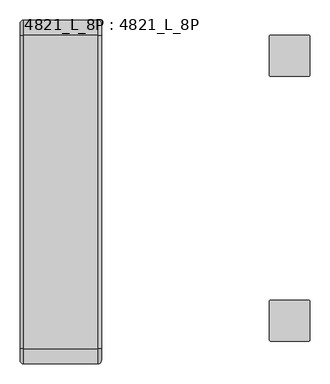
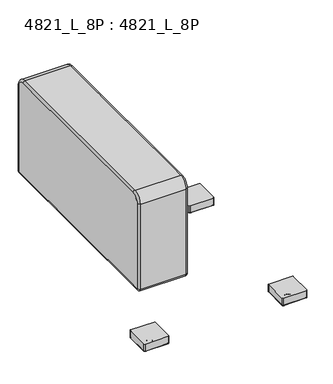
"""IFC4 building model written with IfcOpenShell, lengths in millimetres: furniture geometry, 4821_L_8P : 4821_L_8P."""

from ifc_helpers import new_model, si_unit, point, frame, frame_2d, origin, place, context, project, spatial, polyline, circle_curve, ellipse_curve, trimmed, segment, composite_curve, outline, extrude, source, transform, mapped, element, save
from ifc_brep_helpers import plane_surface, cylinder_surface, revolved_surface, advanced_brep


def furniture_4821_l_8p_4821_l_8p_66b5bbd4(model_context):
    return source(origin(), model_context, "Body", "SolidModel", [
        advanced_brep(
        [(203.2, -8.89, 698.8175), (203.2, -38.1, 728.0275), (203.2, -819.15, 728.0275), (203.2, -848.36, 698.8175), (203.2, -848.36, 330.4403326), (203.2, -847.8021674, 329.8825), (203.2, -9.4347305, 329.8825), (203.2, -8.89, 330.4272305), (0.0, -38.1, 728.0275), (0.0, -8.89, 698.8175), (0.0, -8.89, 330.4272305), (0.0, -9.4347305, 329.8825), (0.0, -847.8021674, 329.8825), (0.0, -848.36, 330.4403326), (0.0, -848.36, 698.8175), (0.0, -819.15, 728.0275), (8.89, -38.1, 736.9175), (8.89, -819.15, 736.9175), (194.31, -819.15, 736.9175), (194.31, -38.1, 736.9175), (8.89, -857.25, 698.8175), (194.31, -857.25, 698.8175), (8.89, -857.25, 330.4403326), (194.31, -857.25, 330.4403326), (8.89, -847.8021674, 320.9925), (194.31, -847.8021674, 320.9925), (8.89, -9.4347305, 320.9925), (194.31, -9.4347305, 320.9925), (57.15, -187.325, 320.9925), (57.15, -161.925, 320.9925), (57.15, -695.325, 320.9925), (57.15, -669.925, 320.9925), (8.89, 0.0, 330.4272305), (194.31, 0.0, 330.4272305), (8.89, 0.0, 698.8175), (194.31, 0.0, 698.8175), (57.15, -161.925, 333.6925), (57.15, -187.325, 333.6925), (57.15, -669.925, 333.6925), (57.15, -695.325, 333.6925)],
        [
            (0, 1, circle_curve(frame((203.2, -38.1, 698.8175), z_axis=(1.0, 0.0, 0.0), x_axis=(0.0, 0.0, 1.0)), 29.21)),
            (1, 2),
            (2, 3, circle_curve(frame((203.2, -819.15, 698.8175), z_axis=(1.0, 0.0, 0.0), x_axis=(0.0, -1.0, 0.0)), 29.21)),
            (3, 4),
            (4, 5, circle_curve(frame((203.2, -847.8021674, 330.4403326), z_axis=(1.0, 0.0, 0.0), x_axis=(0.0, 0.0, -1.0)), 0.5578326)),
            (5, 6),
            (6, 7, circle_curve(frame((203.2, -9.4347305, 330.4272305), z_axis=(1.0, 0.0, 0.0), x_axis=(0.0, 1.0, 0.0)), 0.5447305)),
            (7, 0),
            (8, 9, circle_curve(frame((0.0, -38.1, 698.8175), z_axis=(-1.0, 0.0, 0.0), x_axis=(0.0, 0.0, 1.0)), 29.21)),
            (9, 10),
            (10, 11, circle_curve(frame((0.0, -9.4347305, 330.4272305), z_axis=(-1.0, 0.0, 0.0), x_axis=(0.0, 1.0, 0.0)), 0.5447305)),
            (11, 12),
            (12, 13, circle_curve(frame((0.0, -847.8021674, 330.4403326), z_axis=(-1.0, 0.0, 0.0), x_axis=(0.0, 0.0, -1.0)), 0.5578326)),
            (13, 14),
            (14, 15, circle_curve(frame((0.0, -819.15, 698.8175), z_axis=(-1.0, 0.0, 0.0), x_axis=(0.0, -1.0, 0.0)), 29.21)),
            (15, 8),
            (16, 17),
            (17, 18),
            (18, 19),
            (19, 16),
            (17, 20, circle_curve(frame((8.89, -819.15, 698.8175), z_axis=(1.0, 0.0, 0.0), x_axis=(0.0, -1.0, 0.0)), 38.1)),
            (20, 21),
            (21, 18, circle_curve(frame((194.31, -819.15, 698.8175), z_axis=(-1.0, 0.0, 0.0), x_axis=(0.0, -1.0, 0.0)), 38.1)),
            (20, 22),
            (22, 23),
            (23, 21),
            (22, 24, circle_curve(frame((8.89, -847.8021674, 330.4403326), z_axis=(1.0, 0.0, 0.0), x_axis=(0.0, -1.0, 0.0)), 9.4478326)),
            (24, 25),
            (25, 23, circle_curve(frame((194.31, -847.8021674, 330.4403326), z_axis=(-1.0, 0.0, 0.0), x_axis=(0.0, -1.0, 0.0)), 9.4478326)),
            (24, 26),
            (26, 27),
            (27, 25),
            (28, 29, circle_curve(frame((57.15, -174.625, 320.9925), z_axis=(0.0, 0.0, 1.0), x_axis=(-1.0, 0.0, 0.0)), 12.7)),
            (29, 28),
            (30, 31, circle_curve(frame((57.15, -682.625, 320.9925), z_axis=(0.0, 0.0, 1.0), x_axis=(-1.0, 0.0, 0.0)), 12.7)),
            (31, 30),
            (26, 32, circle_curve(frame((8.89, -9.4347305, 330.4272305), z_axis=(1.0, 0.0, 0.0), x_axis=(0.0, -1.0, 0.0)), 9.4347305)),
            (32, 33),
            (33, 27, circle_curve(frame((194.31, -9.4347305, 330.4272305), z_axis=(-1.0, 0.0, 0.0), x_axis=(0.0, -1.0, 0.0)), 9.4347305)),
            (32, 34),
            (34, 35),
            (35, 33),
            (34, 16, circle_curve(frame((8.89, -38.1, 698.8175), z_axis=(1.0, 0.0, 0.0), x_axis=(0.0, -1.0, 0.0)), 38.1)),
            (19, 35, circle_curve(frame((194.31, -38.1, 698.8175), z_axis=(-1.0, 0.0, 0.0), x_axis=(0.0, -1.0, 0.0)), 38.1)),
            (34, 9, circle_curve(frame((8.89, -8.89, 698.8175), z_axis=(0.0, 0.0, 1.0), x_axis=(1.0, 0.0, 0.0)), 8.89)),
            (8, 16, circle_curve(frame((8.89, -38.1, 728.0275), z_axis=(0.0, 1.0, 0.0), x_axis=(1.0, 0.0, 0.0)), 8.89)),
            (32, 10, circle_curve(frame((8.89, -8.89, 330.4272305), z_axis=(0.0, 0.0, 1.0), x_axis=(1.0, 0.0, 0.0)), 8.89)),
            (26, 11, circle_curve(frame((8.89, -9.4347305, 329.8825), z_axis=(0.0, 1.0, 0.0), x_axis=(1.0, 0.0, 0.0)), 8.89)),
            (24, 12, circle_curve(frame((8.89, -847.8021674, 329.8825), z_axis=(0.0, 1.0, 0.0), x_axis=(1.0, 0.0, 0.0)), 8.89)),
            (22, 13, circle_curve(frame((8.89, -848.36, 330.4403326), z_axis=(0.0, 0.0, -1.0), x_axis=(1.0, 0.0, 0.0)), 8.89)),
            (20, 14, circle_curve(frame((8.89, -848.36, 698.8175), z_axis=(0.0, 0.0, -1.0), x_axis=(1.0, 0.0, 0.0)), 8.89)),
            (17, 15, circle_curve(frame((8.89, -819.15, 728.0275), z_axis=(0.0, -1.0, 0.0), x_axis=(1.0, 0.0, 0.0)), 8.89)),
            (0, 35, circle_curve(frame((194.31, -8.89, 698.8175), z_axis=(0.0, 0.0, 1.0), x_axis=(-1.0, 0.0, 0.0)), 8.89)),
            (19, 1, circle_curve(frame((194.31, -38.1, 728.0275), z_axis=(0.0, 1.0, 0.0), x_axis=(-1.0, 0.0, 0.0)), 8.89)),
            (7, 33, circle_curve(frame((194.31, -8.89, 330.4272305), z_axis=(0.0, 0.0, 1.0), x_axis=(-1.0, 0.0, 0.0)), 8.89)),
            (6, 27, circle_curve(frame((194.31, -9.4347305, 329.8825), z_axis=(0.0, 1.0, 0.0), x_axis=(-1.0, 0.0, 0.0)), 8.89)),
            (5, 25, circle_curve(frame((194.31, -847.8021674, 329.8825), z_axis=(0.0, 1.0, 0.0), x_axis=(-1.0, 0.0, 0.0)), 8.89)),
            (4, 23, circle_curve(frame((194.31, -848.36, 330.4403326), z_axis=(0.0, 0.0, -1.0), x_axis=(-1.0, 0.0, 0.0)), 8.89)),
            (3, 21, circle_curve(frame((194.31, -848.36, 698.8175), z_axis=(0.0, 0.0, -1.0), x_axis=(-1.0, 0.0, 0.0)), 8.89)),
            (2, 18, circle_curve(frame((194.31, -819.15, 728.0275), z_axis=(0.0, -1.0, 0.0), x_axis=(-1.0, 0.0, 0.0)), 8.89)),
            (36, 37, circle_curve(frame((57.15, -174.625, 333.6925), z_axis=(0.0, 0.0, -1.0), x_axis=(-1.0, 0.0, 0.0)), 12.7)),
            (37, 36),
            (38, 39, circle_curve(frame((57.15, -682.625, 333.6925), z_axis=(0.0, 0.0, -1.0), x_axis=(-1.0, 0.0, 0.0)), 12.7)),
            (39, 38),
            (36, 29),
            (28, 37),
            (38, 31),
            (30, 39),
        ],
        [
            plane_surface(frame((203.2, -819.15, 736.9175), z_axis=(1.0, 0.0, 0.0), x_axis=(0.0, -1.0, 0.0))),
            plane_surface(frame((0.0, -819.15, 736.9175), z_axis=(-1.0, 0.0, 0.0), x_axis=(0.0, 1.0, 0.0))),
            plane_surface(frame((203.2, -38.1, 736.9175), z_axis=(0.0, 0.0, 1.0), x_axis=(-1.0, 0.0, 0.0))),
            cylinder_surface(frame((0.0, -819.15, 698.8175), z_axis=(1.0, 0.0, 0.0), x_axis=(0.0, -1.0, 0.0)), 38.1),
            plane_surface(frame((203.2, -857.25, 698.8175), z_axis=(0.0, -1.0, 0.0), x_axis=(-1.0, 0.0, 0.0))),
            cylinder_surface(frame((0.0, -847.8021674, 330.4403326), z_axis=(1.0, 0.0, 0.0), x_axis=(0.0, -1.0, 0.0)), 9.4478326),
            plane_surface(frame((203.2, -847.8021674, 320.9925), z_axis=(0.0, 0.0, -1.0), x_axis=(-1.0, 0.0, 0.0))),
            cylinder_surface(frame((0.0, -9.4347305, 330.4272305), z_axis=(1.0, 0.0, 0.0), x_axis=(0.0, -1.0, 0.0)), 9.4347305),
            plane_surface(frame((203.2, 0.0, 330.4272305), z_axis=(0.0, 1.0, 0.0), x_axis=(-1.0, 0.0, 0.0))),
            cylinder_surface(frame((0.0, -38.1, 698.8175), z_axis=(1.0, 0.0, 0.0), x_axis=(0.0, -1.0, 0.0)), 38.1),
            revolved_surface(trimmed(ellipse_curve(frame((8.89, -38.1, 728.0275), z_axis=(0.0, -1.0, 0.0), x_axis=(1.0, 0.0, 0.0)), 8.89, 8.89), [point((8.89, -38.1, 736.9175))], [point((0.0, -38.1, 728.0275))], True, "CARTESIAN"), (0.0, -38.1, 698.8175), (-1.0, 0.0, 0.0)),
            cylinder_surface(frame((8.89, -8.89, 698.8175), z_axis=(0.0, 0.0, -1.0), x_axis=(1.0, 0.0, 0.0)), 8.89),
            revolved_surface(trimmed(ellipse_curve(frame((8.89, -8.89, 330.4272305), z_axis=(0.0, 0.0, 1.0), x_axis=(1.0, 0.0, 0.0)), 8.89, 8.89), [point((8.89, 0.0, 330.4272305))], [point((0.0, -8.89, 330.4272305))], True, "CARTESIAN"), (0.0, -9.4347305, 330.4272305), (-1.0, 0.0, 0.0)),
            cylinder_surface(frame((8.89, -9.4347305, 329.8825), z_axis=(0.0, -1.0, 0.0), x_axis=(1.0, 0.0, 0.0)), 8.89),
            revolved_surface(trimmed(ellipse_curve(frame((8.89, -847.8021674, 329.8825), z_axis=(0.0, 1.0, 0.0), x_axis=(1.0, 0.0, 0.0)), 8.89, 8.89), [point((8.89, -847.8021674, 320.9925))], [point((0.0, -847.8021674, 329.8825))], True, "CARTESIAN"), (0.0, -847.8021674, 330.4403326), (-1.0, 0.0, 0.0)),
            cylinder_surface(frame((8.89, -848.36, 330.4403326), z_axis=(0.0, 0.0, 1.0), x_axis=(1.0, 0.0, 0.0)), 8.89),
            revolved_surface(trimmed(ellipse_curve(frame((8.89, -848.36, 698.8175), z_axis=(0.0, 0.0, -1.0), x_axis=(1.0, 0.0, 0.0)), 8.89, 8.89), [point((8.89, -857.25, 698.8175))], [point((0.0, -848.36, 698.8175))], True, "CARTESIAN"), (0.0, -819.15, 698.8175), (-1.0, 0.0, 0.0)),
            cylinder_surface(frame((8.89, -819.15, 728.0275), z_axis=(0.0, 1.0, 0.0), x_axis=(1.0, 0.0, 0.0)), 8.89),
            revolved_surface(trimmed(ellipse_curve(frame((194.31, -38.1, 728.0275), z_axis=(0.0, -1.0, 0.0), x_axis=(-1.0, 0.0, 0.0)), 8.89, 8.89), [point((203.2, -38.1, 728.0275))], [point((194.31, -38.1, 736.9175))], True, "CARTESIAN"), (203.2, -38.1, 698.8175), (-1.0, 0.0, 0.0)),
            cylinder_surface(frame((194.31, -8.89, 698.8175), z_axis=(0.0, 0.0, -1.0), x_axis=(-1.0, 0.0, 0.0)), 8.89),
            revolved_surface(trimmed(ellipse_curve(frame((194.31, -8.89, 330.4272305), z_axis=(0.0, 0.0, 1.0), x_axis=(-1.0, 0.0, 0.0)), 8.89, 8.89), [point((203.2, -8.89, 330.4272305))], [point((194.31, 0.0, 330.4272305))], True, "CARTESIAN"), (203.2, -9.4347305, 330.4272305), (-1.0, 0.0, 0.0)),
            cylinder_surface(frame((194.31, -9.4347305, 329.8825), z_axis=(0.0, -1.0, 0.0), x_axis=(-1.0, 0.0, 0.0)), 8.89),
            revolved_surface(trimmed(ellipse_curve(frame((194.31, -847.8021674, 329.8825), z_axis=(0.0, 1.0, 0.0), x_axis=(-1.0, 0.0, 0.0)), 8.89, 8.89), [point((203.2, -847.8021674, 329.8825))], [point((194.31, -847.8021674, 320.9925))], True, "CARTESIAN"), (203.2, -847.8021674, 330.4403326), (-1.0, 0.0, 0.0)),
            cylinder_surface(frame((194.31, -848.36, 330.4403326), z_axis=(0.0, 0.0, 1.0), x_axis=(-1.0, 0.0, 0.0)), 8.89),
            revolved_surface(trimmed(ellipse_curve(frame((194.31, -848.36, 698.8175), z_axis=(0.0, 0.0, -1.0), x_axis=(-1.0, 0.0, 0.0)), 8.89, 8.89), [point((203.2, -848.36, 698.8175))], [point((194.31, -857.25, 698.8175))], True, "CARTESIAN"), (203.2, -819.15, 698.8175), (-1.0, 0.0, 0.0)),
            cylinder_surface(frame((194.31, -819.15, 728.0275), z_axis=(0.0, 1.0, 0.0), x_axis=(-1.0, 0.0, 0.0)), 8.89),
            plane_surface(frame((57.15, -187.325, 333.6925), z_axis=(0.0, 0.0, -1.0), x_axis=(0.0, -1.0, 0.0))),
            revolved_surface(polyline([(44.45, -174.625, 333.6925), (44.45, -174.625, 320.9925)]), (57.15, -174.625, 320.9925), (0.0, 0.0, 1.0)),
            plane_surface(frame((57.15, -161.925, 333.6925), z_axis=(1.0, 0.0, 0.0), x_axis=(0.0, 0.0, -1.0))),
            revolved_surface(polyline([(44.45, -682.625, 333.6925), (44.45, -682.625, 320.9925)]), (57.15, -682.625, 9.8425), (0.0, 0.0, 1.0)),
            plane_surface(frame((57.15, -669.925, 333.6925), z_axis=(1.0, 0.0, 0.0), x_axis=(0.0, 0.0, -1.0))),
        ],
        [
            (0, [[1, 2, 3, 4, 5, 6, 7, 8]]),
            (1, [[9, 10, 11, 12, 13, 14, 15, 16]]),
            (2, [[17, 18, 19, 20]]),
            (3, [[21, 22, 23, -18]]),
            (4, [[24, 25, 26, -22]]),
            (5, [[27, 28, 29, -25]]),
            (6, [[30, 31, 32, -28], [33, 34], [35, 36]]),
            (7, [[37, 38, 39, -31]]),
            (8, [[40, 41, 42, -38]]),
            (9, [[43, -20, 44, -41]]),
            (10, [[45, -9, 46, -43]]),
            (11, [[-45, -40, 47, -10]]),
            (12, [[-47, -37, 48, -11]]),
            (13, [[-48, -30, 49, -12]]),
            (14, [[-49, -27, 50, -13]]),
            (15, [[-50, -24, 51, -14]]),
            (16, [[-51, -21, 52, -15]]),
            (17, [[-46, -16, -52, -17]]),
            (18, [[53, -44, 54, -1]]),
            (19, [[-53, -8, 55, -42]]),
            (20, [[-55, -7, 56, -39]]),
            (21, [[-56, -6, 57, -32]]),
            (22, [[-57, -5, 58, -29]]),
            (23, [[-58, -4, 59, -26]]),
            (24, [[-59, -3, 60, -23]]),
            (25, [[-54, -19, -60, -2]]),
            (26, [[61, 62]]),
            (26, [[63, 64]]),
            (27, [[-61, 65, -33, 66]]),
            (28, [[-62, -66, -34, -65]]),
            (29, [[-63, 67, -35, 68]]),
            (30, [[-64, -68, -36, -67]]),
        ],
    ),
        advanced_brep(
        [(155.575, -698.5, 41.5925), (60.325, -698.5, 41.5925), (57.15, -701.675, 41.5925), (57.15, -796.925, 41.5925), (60.325, -800.1, 41.5925), (155.575, -800.1, 41.5925), (158.75, -796.925, 41.5925), (158.75, -701.675, 41.5925), (58.42, -701.675, 11.1125), (60.325, -699.77, 11.1125), (155.575, -699.77, 11.1125), (157.48, -701.675, 11.1125), (157.48, -796.925, 11.1125), (155.575, -798.83, 11.1125), (60.325, -798.83, 11.1125), (58.42, -796.925, 11.1125), (155.575, -698.5, 11.1125), (60.325, -698.5, 11.1125), (57.15, -701.675, 11.1125), (57.15, -796.925, 11.1125), (60.325, -800.1, 11.1125), (155.575, -800.1, 11.1125), (158.75, -796.925, 11.1125), (158.75, -701.675, 11.1125), (60.325, -699.77, 9.8425), (58.42, -701.675, 9.8425), (155.575, -699.77, 9.8425), (157.48, -701.675, 9.8425), (157.48, -796.925, 9.8425), (155.575, -798.83, 9.8425), (60.325, -798.83, 9.8425), (58.42, -796.925, 9.8425)],
        [
            (0, 1),
            (1, 2, circle_curve(frame((60.325, -701.675, 41.5925), z_axis=(0.0, 0.0, 1.0), x_axis=(1.0, 0.0, 0.0)), 3.175)),
            (2, 3),
            (3, 4, circle_curve(frame((60.325, -796.925, 41.5925), z_axis=(0.0, 0.0, 1.0), x_axis=(1.0, 0.0, 0.0)), 3.175)),
            (4, 5),
            (5, 6, circle_curve(frame((155.575, -796.925, 41.5925), z_axis=(0.0, 0.0, 1.0), x_axis=(1.0, 0.0, 0.0)), 3.175)),
            (6, 7),
            (7, 0, circle_curve(frame((155.575, -701.675, 41.5925), z_axis=(0.0, 0.0, 1.0), x_axis=(1.0, 0.0, 0.0)), 3.175)),
            (8, 9, circle_curve(frame((60.325, -701.675, 11.1125), z_axis=(0.0, 0.0, -1.0), x_axis=(-1.0, 0.0, 0.0)), 1.905)),
            (9, 10),
            (10, 11, circle_curve(frame((155.575, -701.675, 11.1125), z_axis=(0.0, 0.0, -1.0), x_axis=(0.0, 1.0, 0.0)), 1.905)),
            (11, 12),
            (12, 13, circle_curve(frame((155.575, -796.925, 11.1125), z_axis=(0.0, 0.0, -1.0), x_axis=(1.0, 0.0, 0.0)), 1.905)),
            (13, 14),
            (14, 15, circle_curve(frame((60.325, -796.925, 11.1125), z_axis=(0.0, 0.0, -1.0), x_axis=(0.0, -1.0, 0.0)), 1.905)),
            (15, 8),
            (0, 16),
            (16, 17),
            (17, 1),
            (17, 18, circle_curve(frame((60.325, -701.675, 11.1125), z_axis=(0.0, 0.0, 1.0), x_axis=(1.0, 0.0, 0.0)), 3.175)),
            (18, 2),
            (18, 19),
            (19, 3),
            (19, 20, circle_curve(frame((60.325, -796.925, 11.1125), z_axis=(0.0, 0.0, 1.0), x_axis=(1.0, 0.0, 0.0)), 3.175)),
            (20, 4),
            (20, 21),
            (21, 5),
            (21, 22, circle_curve(frame((155.575, -796.925, 11.1125), z_axis=(0.0, 0.0, 1.0), x_axis=(1.0, 0.0, 0.0)), 3.175)),
            (22, 6),
            (22, 23),
            (23, 7),
            (23, 16, circle_curve(frame((155.575, -701.675, 11.1125), z_axis=(0.0, 0.0, 1.0), x_axis=(1.0, 0.0, 0.0)), 3.175)),
            (24, 25, circle_curve(frame((60.325, -701.675, 9.8425), z_axis=(0.0, 0.0, 1.0), x_axis=(-1.0, 0.0, 0.0)), 1.905)),
            (25, 18, circle_curve(frame((58.42, -701.675, 11.1125), z_axis=(0.0, 1.0, 0.0), x_axis=(1.0, 0.0, 0.0)), 1.27)),
            (17, 24, circle_curve(frame((60.325, -699.77, 11.1125), z_axis=(-1.0, 0.0, 0.0), x_axis=(0.0, -1.0, 0.0)), 1.27)),
            (16, 26, circle_curve(frame((155.575, -699.77, 11.1125), z_axis=(-1.0, 0.0, 0.0), x_axis=(0.0, -1.0, 0.0)), 1.27)),
            (26, 24),
            (23, 27, circle_curve(frame((157.48, -701.675, 11.1125), z_axis=(0.0, 1.0, 0.0), x_axis=(-1.0, 0.0, 0.0)), 1.27)),
            (27, 26, circle_curve(frame((155.575, -701.675, 9.8425), z_axis=(0.0, 0.0, 1.0), x_axis=(0.0, 1.0, 0.0)), 1.905)),
            (22, 28, circle_curve(frame((157.48, -796.925, 11.1125), z_axis=(0.0, 1.0, 0.0), x_axis=(-1.0, 0.0, 0.0)), 1.27)),
            (28, 27),
            (21, 29, circle_curve(frame((155.575, -798.83, 11.1125), z_axis=(1.0, 0.0, 0.0), x_axis=(0.0, 1.0, 0.0)), 1.27)),
            (29, 28, circle_curve(frame((155.575, -796.925, 9.8425), z_axis=(0.0, 0.0, 1.0), x_axis=(1.0, 0.0, 0.0)), 1.905)),
            (20, 30, circle_curve(frame((60.325, -798.83, 11.1125), z_axis=(1.0, 0.0, 0.0), x_axis=(0.0, 1.0, 0.0)), 1.27)),
            (30, 29),
            (19, 31, circle_curve(frame((58.42, -796.925, 11.1125), z_axis=(0.0, -1.0, 0.0), x_axis=(1.0, 0.0, 0.0)), 1.27)),
            (31, 30, circle_curve(frame((60.325, -796.925, 9.8425), z_axis=(0.0, 0.0, 1.0), x_axis=(0.0, -1.0, 0.0)), 1.905)),
            (25, 31),
            (24, 9),
            (8, 25),
            (26, 10),
            (27, 11),
            (28, 12),
            (29, 13),
            (30, 14),
            (31, 15),
        ],
        [
            plane_surface(frame((60.325, -698.5, 41.5925), z_axis=(0.0, 0.0, 1.0), x_axis=(-1.0, 0.0, 0.0))),
            plane_surface(frame((60.325, -698.5, 11.1125), z_axis=(0.0, 0.0, -1.0), x_axis=(1.0, 0.0, 0.0))),
            plane_surface(frame((155.575, -698.5, 41.5925), z_axis=(0.0, 1.0, 0.0), x_axis=(0.0, 0.0, -1.0))),
            cylinder_surface(frame((60.325, -701.675, 11.1125), z_axis=(0.0, 0.0, 1.0), x_axis=(1.0, 0.0, 0.0)), 3.175),
            plane_surface(frame((57.15, -701.675, 41.5925), z_axis=(-1.0, 0.0, 0.0), x_axis=(0.0, 0.0, -1.0))),
            cylinder_surface(frame((60.325, -796.925, 11.1125), z_axis=(0.0, 0.0, 1.0), x_axis=(1.0, 0.0, 0.0)), 3.175),
            plane_surface(frame((60.325, -800.1, 41.5925), z_axis=(0.0, -1.0, 0.0), x_axis=(0.0, 0.0, -1.0))),
            cylinder_surface(frame((155.575, -796.925, 11.1125), z_axis=(0.0, 0.0, 1.0), x_axis=(1.0, 0.0, 0.0)), 3.175),
            plane_surface(frame((158.75, -796.925, 41.5925), z_axis=(1.0, 0.0, 0.0), x_axis=(0.0, 0.0, -1.0))),
            cylinder_surface(frame((155.575, -701.675, 11.1125), z_axis=(0.0, 0.0, 1.0), x_axis=(1.0, 0.0, 0.0)), 3.175),
            revolved_surface(trimmed(ellipse_curve(frame((58.42, -701.675, 11.1125), z_axis=(0.0, -1.0, 0.0), x_axis=(1.0, 0.0, 0.0)), 1.27, 1.27), [point((57.15, -701.675, 11.1125))], [point((58.42, -701.675, 9.8425))], True, "CARTESIAN"), (60.325, -701.675, 11.1125), (0.0, 0.0, -1.0)),
            cylinder_surface(frame((60.325, -699.77, 11.1125), z_axis=(-1.0, 0.0, 0.0), x_axis=(0.0, -1.0, 0.0)), 1.27),
            revolved_surface(trimmed(ellipse_curve(frame((155.575, -699.77, 11.1125), z_axis=(-1.0, 0.0, 0.0), x_axis=(0.0, -1.0, 0.0)), 1.27, 1.27), [point((155.575, -698.5, 11.1125))], [point((155.575, -699.77, 9.8425))], True, "CARTESIAN"), (155.575, -701.675, 11.1125), (0.0, 0.0, -1.0)),
            cylinder_surface(frame((157.48, -701.675, 11.1125), z_axis=(0.0, 1.0, 0.0), x_axis=(-1.0, 0.0, 0.0)), 1.27),
            revolved_surface(trimmed(ellipse_curve(frame((157.48, -796.925, 11.1125), z_axis=(0.0, 1.0, 0.0), x_axis=(-1.0, 0.0, 0.0)), 1.27, 1.27), [point((158.75, -796.925, 11.1125))], [point((157.48, -796.925, 9.8425))], True, "CARTESIAN"), (155.575, -796.925, 11.1125), (0.0, 0.0, -1.0)),
            cylinder_surface(frame((155.575, -798.83, 11.1125), z_axis=(1.0, 0.0, 0.0), x_axis=(0.0, 1.0, 0.0)), 1.27),
            revolved_surface(trimmed(ellipse_curve(frame((60.325, -798.83, 11.1125), z_axis=(1.0, 0.0, 0.0), x_axis=(0.0, 1.0, 0.0)), 1.27, 1.27), [point((60.325, -800.1, 11.1125))], [point((60.325, -798.83, 9.8425))], True, "CARTESIAN"), (60.325, -796.925, 11.1125), (0.0, 0.0, -1.0)),
            cylinder_surface(frame((58.42, -796.925, 11.1125), z_axis=(0.0, -1.0, 0.0), x_axis=(1.0, 0.0, 0.0)), 1.27),
            revolved_surface(polyline([(58.42, -701.675, 9.8425), (58.42, -701.675, 11.1125)]), (60.325, -701.675, 11.1125), (0.0, 0.0, -1.0)),
            plane_surface(frame((60.325, -699.77, 9.8425), z_axis=(0.0, -1.0, 0.0), x_axis=(1.0, 0.0, 0.0))),
            revolved_surface(polyline([(155.575, -699.77, 9.8425), (155.575, -699.77, 11.1125)]), (155.575, -701.675, 11.1125), (0.0, 0.0, -1.0)),
            plane_surface(frame((157.48, -701.675, 9.8425), z_axis=(-1.0, 0.0, 0.0), x_axis=(0.0, -1.0, 0.0))),
            revolved_surface(polyline([(157.48, -796.925, 9.8425), (157.48, -796.925, 11.1125)]), (155.575, -796.925, 11.1125), (0.0, 0.0, -1.0)),
            plane_surface(frame((155.575, -798.83, 9.8425), z_axis=(0.0, 1.0, 0.0), x_axis=(-1.0, 0.0, 0.0))),
            revolved_surface(polyline([(60.325, -798.8299999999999, 9.8425), (60.325, -798.8299999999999, 11.1125)]), (60.325, -796.925, 11.1125), (0.0, 0.0, -1.0)),
            plane_surface(frame((58.42, -796.925, 9.8425), z_axis=(1.0, 0.0, 0.0), x_axis=(0.0, 1.0, 0.0))),
        ],
        [
            (0, [[1, 2, 3, 4, 5, 6, 7, 8]]),
            (1, [[9, 10, 11, 12, 13, 14, 15, 16]]),
            (2, [[-1, 17, 18, 19]]),
            (3, [[-2, -19, 20, 21]]),
            (4, [[-3, -21, 22, 23]]),
            (5, [[-4, -23, 24, 25]]),
            (6, [[-5, -25, 26, 27]]),
            (7, [[-6, -27, 28, 29]]),
            (8, [[-7, -29, 30, 31]]),
            (9, [[-8, -31, 32, -17]]),
            (10, [[33, 34, -20, 35]]),
            (11, [[-35, -18, 36, 37]]),
            (12, [[-36, -32, 38, 39]]),
            (13, [[-38, -30, 40, 41]]),
            (14, [[-40, -28, 42, 43]]),
            (15, [[-42, -26, 44, 45]]),
            (16, [[-44, -24, 46, 47]]),
            (17, [[-34, 48, -46, -22]]),
            (18, [[-33, 49, -9, 50]]),
            (19, [[-37, 51, -10, -49]]),
            (20, [[-39, 52, -11, -51]]),
            (21, [[-41, 53, -12, -52]]),
            (22, [[-43, 54, -13, -53]]),
            (23, [[-45, 55, -14, -54]]),
            (24, [[-47, 56, -15, -55]]),
            (25, [[-48, -50, -16, -56]]),
        ],
    ),
        extrude(outline(composite_curve([segment(trimmed(circle_curve(frame_2d((60.325, -796.925)), 1.905), [point((60.325, -798.83))], [point((58.42, -796.925))], False, "CARTESIAN"), True, "CONTINUOUS"), segment(polyline([(58.42, -796.925), (58.42, -701.675)]), True, "CONTINUOUS"), segment(trimmed(circle_curve(frame_2d((60.325, -701.675)), 1.905), [point((58.42, -701.675))], [point((60.325, -699.77))], False, "CARTESIAN"), True, "CONTINUOUS"), segment(polyline([(60.325, -699.77), (155.575, -699.77)]), True, "CONTINUOUS"), segment(trimmed(circle_curve(frame_2d((155.575, -701.675)), 1.905), [point((155.575, -699.77))], [point((157.48, -701.675))], False, "CARTESIAN"), True, "CONTINUOUS"), segment(polyline([(157.48, -701.675), (157.48, -796.925)]), True, "CONTINUOUS"), segment(trimmed(circle_curve(frame_2d((155.575, -796.925)), 1.905), [point((157.48, -796.925))], [point((155.575, -798.83))], False, "CARTESIAN"), True, "CONTINUOUS"), segment(polyline([(155.575, -798.83), (60.325, -798.83)]), True, "CONTINUOUS")], self_intersect=False)), frame((0.0, 0.0, 9.8425), z_axis=(0.0, 0.0, 1.0), x_axis=(1.0, 0.0, 0.0)), (0.0, 0.0, 1.0), 1.27),
        advanced_brep(
        [(97.7978666, -749.3, 0.0), (118.1021334, -749.3, 0.0), (107.95, -749.3, 0.0), (97.4725, -749.3, 5.08), (118.4275, -749.3, 5.08), (97.4725, -749.3, 9.0481974), (118.4275, -749.3, 9.0481974), (98.2668026, -749.3, 9.8425), (117.6331974, -749.3, 9.8425), (107.95, -749.3, 9.8425)],
        [
            (0, 1, circle_curve(frame((107.95, -749.3, 0.0), z_axis=(0.0, 0.0, -1.0), x_axis=(1.0, 0.0, 0.0)), 10.1521334)),
            (1, 2),
            (2, 0),
            (1, 0, circle_curve(frame((107.95, -749.3, 0.0), z_axis=(0.0, 0.0, -1.0), x_axis=(1.0, 0.0, 0.0)), 10.1521334)),
            (3, 4, circle_curve(frame((107.95, -749.3, 5.08), z_axis=(0.0, 0.0, -1.0), x_axis=(1.0, 0.0, 0.0)), 10.4775)),
            (4, 1, circle_curve(frame((118.1021334, -749.3, 2.5504196), z_axis=(0.0, 1.0, 0.0), x_axis=(1.0, 0.0, 0.0)), 2.5504196)),
            (0, 3, circle_curve(frame((97.7978666, -749.3, 2.5504196), z_axis=(0.0, 1.0, 0.0), x_axis=(-1.0, 0.0, 0.0)), 2.5504196)),
            (4, 3, circle_curve(frame((107.95, -749.3, 5.08), z_axis=(0.0, 0.0, -1.0), x_axis=(1.0, 0.0, 0.0)), 10.4775)),
            (5, 6, circle_curve(frame((107.95, -749.3, 9.0481974), z_axis=(0.0, 0.0, -1.0), x_axis=(1.0, 0.0, 0.0)), 10.4775)),
            (6, 4),
            (3, 5),
            (6, 5, circle_curve(frame((107.95, -749.3, 9.0481974), z_axis=(0.0, 0.0, -1.0), x_axis=(1.0, 0.0, 0.0)), 10.4775)),
            (7, 8, circle_curve(frame((107.95, -749.3, 9.8425), z_axis=(0.0, 0.0, -1.0), x_axis=(1.0, 0.0, 0.0)), 9.6831974)),
            (8, 6, circle_curve(frame((117.6331974, -749.3, 9.0481974), z_axis=(0.0, 1.0, 0.0), x_axis=(1.0, 0.0, 0.0)), 0.7943026)),
            (5, 7, circle_curve(frame((98.2668026, -749.3, 9.0481974), z_axis=(0.0, 1.0, 0.0), x_axis=(-1.0, 0.0, 0.0)), 0.7943026)),
            (8, 7, circle_curve(frame((107.95, -749.3, 9.8425), z_axis=(0.0, 0.0, -1.0), x_axis=(1.0, 0.0, 0.0)), 9.6831974)),
            (9, 8),
            (7, 9),
        ],
        [
            plane_surface(frame((107.95, -749.3, 0.0), z_axis=(0.0, 0.0, -1.0), x_axis=(1.0, 0.0, 0.0))),
            revolved_surface(trimmed(ellipse_curve(frame((118.1021334, -749.3, 2.5504196), z_axis=(0.0, -1.0, 0.0), x_axis=(1.0, 0.0, 0.0)), 2.5504196, 2.5504196), [point((118.1021334, -749.3, 0.0))], [point((118.4275, -749.3, 5.08))], True, "CARTESIAN"), (107.95, -749.3, 9.8425), (0.0, 0.0, 1.0)),
            cylinder_surface(frame((107.95, -749.3, 9.8425), z_axis=(0.0, 0.0, 1.0), x_axis=(1.0, 0.0, 0.0)), 10.4775),
            revolved_surface(trimmed(ellipse_curve(frame((117.6331974, -749.3, 9.0481974), z_axis=(0.0, -1.0, 0.0), x_axis=(1.0, 0.0, 0.0)), 0.7943026, 0.7943026), [point((118.4275, -749.3, 9.0481974))], [point((117.6331974, -749.3, 9.8425))], True, "CARTESIAN"), (107.95, -749.3, 9.8425), (0.0, 0.0, 1.0)),
            plane_surface(frame((107.95, -749.3, 9.8425), z_axis=(0.0, 0.0, 1.0), x_axis=(1.0, 0.0, 0.0))),
        ],
        [
            (0, [[1, 2, 3]]),
            (0, [[4, -3, -2]]),
            (1, [[5, 6, -1, 7]]),
            (1, [[8, -7, -4, -6]]),
            (2, [[9, 10, -5, 11]]),
            (2, [[12, -11, -8, -10]]),
            (3, [[13, 14, -9, 15]]),
            (3, [[16, -15, -12, -14]]),
            (4, [[17, -13, 18]]),
            (4, [[-18, -16, -17]]),
        ],
    ),
        advanced_brep(
        [(720.725, -698.5, 41.5925), (625.475, -698.5, 41.5925), (622.3, -701.675, 41.5925), (622.3, -796.925, 41.5925), (625.475, -800.1, 41.5925), (720.725, -800.1, 41.5925), (723.9, -796.925, 41.5925), (723.9, -701.675, 41.5925), (623.57, -701.675, 11.1125), (625.475, -699.77, 11.1125), (720.725, -699.77, 11.1125), (722.63, -701.675, 11.1125), (722.63, -796.925, 11.1125), (720.725, -798.83, 11.1125), (625.475, -798.83, 11.1125), (623.57, -796.925, 11.1125), (720.725, -698.5, 11.1125), (625.475, -698.5, 11.1125), (622.3, -701.675, 11.1125), (622.3, -796.925, 11.1125), (625.475, -800.1, 11.1125), (720.725, -800.1, 11.1125), (723.9, -796.925, 11.1125), (723.9, -701.675, 11.1125), (625.475, -699.77, 9.8425), (623.57, -701.675, 9.8425), (720.725, -699.77, 9.8425), (722.63, -701.675, 9.8425), (722.63, -796.925, 9.8425), (720.725, -798.83, 9.8425), (625.475, -798.83, 9.8425), (623.57, -796.925, 9.8425)],
        [
            (0, 1),
            (1, 2, circle_curve(frame((625.475, -701.675, 41.5925), z_axis=(0.0, 0.0, 1.0), x_axis=(1.0, 0.0, 0.0)), 3.175)),
            (2, 3),
            (3, 4, circle_curve(frame((625.475, -796.925, 41.5925), z_axis=(0.0, 0.0, 1.0), x_axis=(1.0, 0.0, 0.0)), 3.175)),
            (4, 5),
            (5, 6, circle_curve(frame((720.725, -796.925, 41.5925), z_axis=(0.0, 0.0, 1.0), x_axis=(1.0, 0.0, 0.0)), 3.175)),
            (6, 7),
            (7, 0, circle_curve(frame((720.725, -701.675, 41.5925), z_axis=(0.0, 0.0, 1.0), x_axis=(1.0, 0.0, 0.0)), 3.175)),
            (8, 9, circle_curve(frame((625.475, -701.675, 11.1125), z_axis=(0.0, 0.0, -1.0), x_axis=(-1.0, 0.0, 0.0)), 1.905)),
            (9, 10),
            (10, 11, circle_curve(frame((720.725, -701.675, 11.1125), z_axis=(0.0, 0.0, -1.0), x_axis=(0.0, 1.0, 0.0)), 1.905)),
            (11, 12),
            (12, 13, circle_curve(frame((720.725, -796.925, 11.1125), z_axis=(0.0, 0.0, -1.0), x_axis=(1.0, 0.0, 0.0)), 1.905)),
            (13, 14),
            (14, 15, circle_curve(frame((625.475, -796.925, 11.1125), z_axis=(0.0, 0.0, -1.0), x_axis=(0.0, -1.0, 0.0)), 1.905)),
            (15, 8),
            (0, 16),
            (16, 17),
            (17, 1),
            (17, 18, circle_curve(frame((625.475, -701.675, 11.1125), z_axis=(0.0, 0.0, 1.0), x_axis=(1.0, 0.0, 0.0)), 3.175)),
            (18, 2),
            (18, 19),
            (19, 3),
            (19, 20, circle_curve(frame((625.475, -796.925, 11.1125), z_axis=(0.0, 0.0, 1.0), x_axis=(1.0, 0.0, 0.0)), 3.175)),
            (20, 4),
            (20, 21),
            (21, 5),
            (21, 22, circle_curve(frame((720.725, -796.925, 11.1125), z_axis=(0.0, 0.0, 1.0), x_axis=(1.0, 0.0, 0.0)), 3.175)),
            (22, 6),
            (22, 23),
            (23, 7),
            (23, 16, circle_curve(frame((720.725, -701.675, 11.1125), z_axis=(0.0, 0.0, 1.0), x_axis=(1.0, 0.0, 0.0)), 3.175)),
            (24, 25, circle_curve(frame((625.475, -701.675, 9.8425), z_axis=(0.0, 0.0, 1.0), x_axis=(-1.0, 0.0, 0.0)), 1.905)),
            (25, 18, circle_curve(frame((623.57, -701.675, 11.1125), z_axis=(0.0, 1.0, 0.0), x_axis=(1.0, 0.0, 0.0)), 1.27)),
            (17, 24, circle_curve(frame((625.475, -699.77, 11.1125), z_axis=(-1.0, 0.0, 0.0), x_axis=(0.0, -1.0, 0.0)), 1.27)),
            (16, 26, circle_curve(frame((720.725, -699.77, 11.1125), z_axis=(-1.0, 0.0, 0.0), x_axis=(0.0, -1.0, 0.0)), 1.27)),
            (26, 24),
            (23, 27, circle_curve(frame((722.63, -701.675, 11.1125), z_axis=(0.0, 1.0, 0.0), x_axis=(-1.0, 0.0, 0.0)), 1.27)),
            (27, 26, circle_curve(frame((720.725, -701.675, 9.8425), z_axis=(0.0, 0.0, 1.0), x_axis=(0.0, 1.0, 0.0)), 1.905)),
            (22, 28, circle_curve(frame((722.63, -796.925, 11.1125), z_axis=(0.0, 1.0, 0.0), x_axis=(-1.0, 0.0, 0.0)), 1.27)),
            (28, 27),
            (21, 29, circle_curve(frame((720.725, -798.83, 11.1125), z_axis=(1.0, 0.0, 0.0), x_axis=(0.0, 1.0, 0.0)), 1.27)),
            (29, 28, circle_curve(frame((720.725, -796.925, 9.8425), z_axis=(0.0, 0.0, 1.0), x_axis=(1.0, 0.0, 0.0)), 1.905)),
            (20, 30, circle_curve(frame((625.475, -798.83, 11.1125), z_axis=(1.0, 0.0, 0.0), x_axis=(0.0, 1.0, 0.0)), 1.27)),
            (30, 29),
            (19, 31, circle_curve(frame((623.57, -796.925, 11.1125), z_axis=(0.0, -1.0, 0.0), x_axis=(1.0, 0.0, 0.0)), 1.27)),
            (31, 30, circle_curve(frame((625.475, -796.925, 9.8425), z_axis=(0.0, 0.0, 1.0), x_axis=(0.0, -1.0, 0.0)), 1.905)),
            (25, 31),
            (24, 9),
            (8, 25),
            (26, 10),
            (27, 11),
            (28, 12),
            (29, 13),
            (30, 14),
            (31, 15),
        ],
        [
            plane_surface(frame((625.475, -698.5, 41.5925), z_axis=(0.0, 0.0, 1.0), x_axis=(-1.0, 0.0, 0.0))),
            plane_surface(frame((625.475, -698.5, 11.1125), z_axis=(0.0, 0.0, -1.0), x_axis=(1.0, 0.0, 0.0))),
            plane_surface(frame((720.725, -698.5, 41.5925), z_axis=(0.0, 1.0, 0.0), x_axis=(0.0, 0.0, -1.0))),
            cylinder_surface(frame((625.475, -701.675, 11.1125), z_axis=(0.0, 0.0, 1.0), x_axis=(1.0, 0.0, 0.0)), 3.175),
            plane_surface(frame((622.3, -701.675, 41.5925), z_axis=(-1.0, 0.0, 0.0), x_axis=(0.0, 0.0, -1.0))),
            cylinder_surface(frame((625.475, -796.925, 11.1125), z_axis=(0.0, 0.0, 1.0), x_axis=(1.0, 0.0, 0.0)), 3.175),
            plane_surface(frame((625.475, -800.1, 41.5925), z_axis=(0.0, -1.0, 0.0), x_axis=(0.0, 0.0, -1.0))),
            cylinder_surface(frame((720.725, -796.925, 11.1125), z_axis=(0.0, 0.0, 1.0), x_axis=(1.0, 0.0, 0.0)), 3.175),
            plane_surface(frame((723.9, -796.925, 41.5925), z_axis=(1.0, 0.0, 0.0), x_axis=(0.0, 0.0, -1.0))),
            cylinder_surface(frame((720.725, -701.675, 11.1125), z_axis=(0.0, 0.0, 1.0), x_axis=(1.0, 0.0, 0.0)), 3.175),
            revolved_surface(trimmed(ellipse_curve(frame((623.57, -701.675, 11.1125), z_axis=(0.0, -1.0, 0.0), x_axis=(1.0, 0.0, 0.0)), 1.27, 1.27), [point((622.3, -701.675, 11.1125))], [point((623.57, -701.675, 9.8425))], True, "CARTESIAN"), (625.475, -701.675, 11.1125), (0.0, 0.0, -1.0)),
            cylinder_surface(frame((625.475, -699.77, 11.1125), z_axis=(-1.0, 0.0, 0.0), x_axis=(0.0, -1.0, 0.0)), 1.27),
            revolved_surface(trimmed(ellipse_curve(frame((720.725, -699.77, 11.1125), z_axis=(-1.0, 0.0, 0.0), x_axis=(0.0, -1.0, 0.0)), 1.27, 1.27), [point((720.725, -698.5, 11.1125))], [point((720.725, -699.77, 9.8425))], True, "CARTESIAN"), (720.725, -701.675, 11.1125), (0.0, 0.0, -1.0)),
            cylinder_surface(frame((722.63, -701.675, 11.1125), z_axis=(0.0, 1.0, 0.0), x_axis=(-1.0, 0.0, 0.0)), 1.27),
            revolved_surface(trimmed(ellipse_curve(frame((722.63, -796.925, 11.1125), z_axis=(0.0, 1.0, 0.0), x_axis=(-1.0, 0.0, 0.0)), 1.27, 1.27), [point((723.9, -796.925, 11.1125))], [point((722.63, -796.925, 9.8425))], True, "CARTESIAN"), (720.725, -796.925, 11.1125), (0.0, 0.0, -1.0)),
            cylinder_surface(frame((720.725, -798.83, 11.1125), z_axis=(1.0, 0.0, 0.0), x_axis=(0.0, 1.0, 0.0)), 1.27),
            revolved_surface(trimmed(ellipse_curve(frame((625.475, -798.83, 11.1125), z_axis=(1.0, 0.0, 0.0), x_axis=(0.0, 1.0, 0.0)), 1.27, 1.27), [point((625.475, -800.1, 11.1125))], [point((625.475, -798.83, 9.8425))], True, "CARTESIAN"), (625.475, -796.925, 11.1125), (0.0, 0.0, -1.0)),
            cylinder_surface(frame((623.57, -796.925, 11.1125), z_axis=(0.0, -1.0, 0.0), x_axis=(1.0, 0.0, 0.0)), 1.27),
            revolved_surface(polyline([(623.57, -701.675, 9.8425), (623.57, -701.675, 11.1125)]), (625.475, -701.675, 11.1125), (0.0, 0.0, -1.0)),
            plane_surface(frame((625.475, -699.77, 9.8425), z_axis=(0.0, -1.0, 0.0), x_axis=(1.0, 0.0, 0.0))),
            revolved_surface(polyline([(720.725, -699.77, 9.8425), (720.725, -699.77, 11.1125)]), (720.725, -701.675, 11.1125), (0.0, 0.0, -1.0)),
            plane_surface(frame((722.63, -701.675, 9.8425), z_axis=(-1.0, 0.0, 0.0), x_axis=(0.0, -1.0, 0.0))),
            revolved_surface(polyline([(722.63, -796.925, 9.8425), (722.63, -796.925, 11.1125)]), (720.725, -796.925, 11.1125), (0.0, 0.0, -1.0)),
            plane_surface(frame((720.725, -798.83, 9.8425), z_axis=(0.0, 1.0, 0.0), x_axis=(-1.0, 0.0, 0.0))),
            revolved_surface(polyline([(625.475, -798.8299999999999, 9.8425), (625.475, -798.8299999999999, 11.1125)]), (625.475, -796.925, 11.1125), (0.0, 0.0, -1.0)),
            plane_surface(frame((623.57, -796.925, 9.8425), z_axis=(1.0, 0.0, 0.0), x_axis=(0.0, 1.0, 0.0))),
        ],
        [
            (0, [[1, 2, 3, 4, 5, 6, 7, 8]]),
            (1, [[9, 10, 11, 12, 13, 14, 15, 16]]),
            (2, [[-1, 17, 18, 19]]),
            (3, [[-2, -19, 20, 21]]),
            (4, [[-3, -21, 22, 23]]),
            (5, [[-4, -23, 24, 25]]),
            (6, [[-5, -25, 26, 27]]),
            (7, [[-6, -27, 28, 29]]),
            (8, [[-7, -29, 30, 31]]),
            (9, [[-8, -31, 32, -17]]),
            (10, [[33, 34, -20, 35]]),
            (11, [[-35, -18, 36, 37]]),
            (12, [[-36, -32, 38, 39]]),
            (13, [[-38, -30, 40, 41]]),
            (14, [[-40, -28, 42, 43]]),
            (15, [[-42, -26, 44, 45]]),
            (16, [[-44, -24, 46, 47]]),
            (17, [[-34, 48, -46, -22]]),
            (18, [[-33, 49, -9, 50]]),
            (19, [[-37, 51, -10, -49]]),
            (20, [[-39, 52, -11, -51]]),
            (21, [[-41, 53, -12, -52]]),
            (22, [[-43, 54, -13, -53]]),
            (23, [[-45, 55, -14, -54]]),
            (24, [[-47, 56, -15, -55]]),
            (25, [[-48, -50, -16, -56]]),
        ],
    ),
        extrude(outline(composite_curve([segment(trimmed(circle_curve(frame_2d((625.475, -796.925)), 1.905), [point((625.475, -798.83))], [point((623.57, -796.925))], False, "CARTESIAN"), True, "CONTINUOUS"), segment(polyline([(623.57, -796.925), (623.57, -701.675)]), True, "CONTINUOUS"), segment(trimmed(circle_curve(frame_2d((625.475, -701.675)), 1.905), [point((623.57, -701.675))], [point((625.475, -699.77))], False, "CARTESIAN"), True, "CONTINUOUS"), segment(polyline([(625.475, -699.77), (720.725, -699.77)]), True, "CONTINUOUS"), segment(trimmed(circle_curve(frame_2d((720.725, -701.675)), 1.905), [point((720.725, -699.77))], [point((722.63, -701.675))], False, "CARTESIAN"), True, "CONTINUOUS"), segment(polyline([(722.63, -701.675), (722.63, -796.925)]), True, "CONTINUOUS"), segment(trimmed(circle_curve(frame_2d((720.725, -796.925)), 1.905), [point((722.63, -796.925))], [point((720.725, -798.83))], False, "CARTESIAN"), True, "CONTINUOUS"), segment(polyline([(720.725, -798.83), (625.475, -798.83)]), True, "CONTINUOUS")], self_intersect=False)), frame((0.0, 0.0, 9.8425), z_axis=(0.0, 0.0, 1.0), x_axis=(1.0, 0.0, 0.0)), (0.0, 0.0, 1.0), 1.27),
        advanced_brep(
        [(662.9478666, -749.3, 0.0), (683.2521334, -749.3, 0.0), (673.1, -749.3, 0.0), (662.6225, -749.3, 5.08), (683.5775, -749.3, 5.08), (662.6225, -749.3, 9.0481974), (683.5775, -749.3, 9.0481974), (663.4168026, -749.3, 9.8425), (682.7831974, -749.3, 9.8425), (673.1, -749.3, 9.8425)],
        [
            (0, 1, circle_curve(frame((673.1, -749.3, 0.0), z_axis=(0.0, 0.0, -1.0), x_axis=(1.0, 0.0, 0.0)), 10.1521334)),
            (1, 2),
            (2, 0),
            (1, 0, circle_curve(frame((673.1, -749.3, 0.0), z_axis=(0.0, 0.0, -1.0), x_axis=(1.0, 0.0, 0.0)), 10.1521334)),
            (3, 4, circle_curve(frame((673.1, -749.3, 5.08), z_axis=(0.0, 0.0, -1.0), x_axis=(1.0, 0.0, 0.0)), 10.4775)),
            (4, 1, circle_curve(frame((683.2521334, -749.3, 2.5504196), z_axis=(0.0, 1.0, 0.0), x_axis=(1.0, 0.0, 0.0)), 2.5504196)),
            (0, 3, circle_curve(frame((662.9478666, -749.3, 2.5504196), z_axis=(0.0, 1.0, 0.0), x_axis=(-1.0, 0.0, 0.0)), 2.5504196)),
            (4, 3, circle_curve(frame((673.1, -749.3, 5.08), z_axis=(0.0, 0.0, -1.0), x_axis=(1.0, 0.0, 0.0)), 10.4775)),
            (5, 6, circle_curve(frame((673.1, -749.3, 9.0481974), z_axis=(0.0, 0.0, -1.0), x_axis=(1.0, 0.0, 0.0)), 10.4775)),
            (6, 4),
            (3, 5),
            (6, 5, circle_curve(frame((673.1, -749.3, 9.0481974), z_axis=(0.0, 0.0, -1.0), x_axis=(1.0, 0.0, 0.0)), 10.4775)),
            (7, 8, circle_curve(frame((673.1, -749.3, 9.8425), z_axis=(0.0, 0.0, -1.0), x_axis=(1.0, 0.0, 0.0)), 9.6831974)),
            (8, 6, circle_curve(frame((682.7831974, -749.3, 9.0481974), z_axis=(0.0, 1.0, 0.0), x_axis=(1.0, 0.0, 0.0)), 0.7943026)),
            (5, 7, circle_curve(frame((663.4168026, -749.3, 9.0481974), z_axis=(0.0, 1.0, 0.0), x_axis=(-1.0, 0.0, 0.0)), 0.7943026)),
            (8, 7, circle_curve(frame((673.1, -749.3, 9.8425), z_axis=(0.0, 0.0, -1.0), x_axis=(1.0, 0.0, 0.0)), 9.6831974)),
            (9, 8),
            (7, 9),
        ],
        [
            plane_surface(frame((673.1, -749.3, 0.0), z_axis=(0.0, 0.0, -1.0), x_axis=(1.0, 0.0, 0.0))),
            revolved_surface(trimmed(ellipse_curve(frame((683.2521334, -749.3, 2.5504196), z_axis=(0.0, -1.0, 0.0), x_axis=(1.0, 0.0, 0.0)), 2.5504196, 2.5504196), [point((683.2521334, -749.3, 0.0))], [point((683.5775, -749.3, 5.08))], True, "CARTESIAN"), (673.1, -749.3, 9.8425), (0.0, 0.0, 1.0)),
            cylinder_surface(frame((673.1, -749.3, 9.8425), z_axis=(0.0, 0.0, 1.0), x_axis=(1.0, 0.0, 0.0)), 10.4775),
            revolved_surface(trimmed(ellipse_curve(frame((682.7831974, -749.3, 9.0481974), z_axis=(0.0, -1.0, 0.0), x_axis=(1.0, 0.0, 0.0)), 0.7943026, 0.7943026), [point((683.5775, -749.3, 9.0481974))], [point((682.7831974, -749.3, 9.8425))], True, "CARTESIAN"), (673.1, -749.3, 9.8425), (0.0, 0.0, 1.0)),
            plane_surface(frame((673.1, -749.3, 9.8425), z_axis=(0.0, 0.0, 1.0), x_axis=(1.0, 0.0, 0.0))),
        ],
        [
            (0, [[1, 2, 3]]),
            (0, [[4, -3, -2]]),
            (1, [[5, 6, -1, 7]]),
            (1, [[8, -7, -4, -6]]),
            (2, [[9, 10, -5, 11]]),
            (2, [[12, -11, -8, -10]]),
            (3, [[13, 14, -9, 15]]),
            (3, [[16, -15, -12, -14]]),
            (4, [[17, -13, 18]]),
            (4, [[-18, -16, -17]]),
        ],
    ),
        advanced_brep(
        [(720.725, -38.1, 41.5925), (625.475, -38.1, 41.5925), (622.3, -41.275, 41.5925), (622.3, -136.525, 41.5925), (625.475, -139.7, 41.5925), (720.725, -139.7, 41.5925), (723.9, -136.525, 41.5925), (723.9, -41.275, 41.5925), (623.57, -41.275, 11.1125), (625.475, -39.37, 11.1125), (720.725, -39.37, 11.1125), (722.63, -41.275, 11.1125), (722.63, -136.525, 11.1125), (720.725, -138.43, 11.1125), (625.475, -138.43, 11.1125), (623.57, -136.525, 11.1125), (720.725, -38.1, 11.1125), (625.475, -38.1, 11.1125), (622.3, -41.275, 11.1125), (622.3, -136.525, 11.1125), (625.475, -139.7, 11.1125), (720.725, -139.7, 11.1125), (723.9, -136.525, 11.1125), (723.9, -41.275, 11.1125), (625.475, -39.37, 9.8425), (623.57, -41.275, 9.8425), (720.725, -39.37, 9.8425), (722.63, -41.275, 9.8425), (722.63, -136.525, 9.8425), (720.725, -138.43, 9.8425), (625.475, -138.43, 9.8425), (623.57, -136.525, 9.8425)],
        [
            (0, 1),
            (1, 2, circle_curve(frame((625.475, -41.275, 41.5925), z_axis=(0.0, 0.0, 1.0), x_axis=(1.0, 0.0, 0.0)), 3.175)),
            (2, 3),
            (3, 4, circle_curve(frame((625.475, -136.525, 41.5925), z_axis=(0.0, 0.0, 1.0), x_axis=(1.0, 0.0, 0.0)), 3.175)),
            (4, 5),
            (5, 6, circle_curve(frame((720.725, -136.525, 41.5925), z_axis=(0.0, 0.0, 1.0), x_axis=(1.0, 0.0, 0.0)), 3.175)),
            (6, 7),
            (7, 0, circle_curve(frame((720.725, -41.275, 41.5925), z_axis=(0.0, 0.0, 1.0), x_axis=(1.0, 0.0, 0.0)), 3.175)),
            (8, 9, circle_curve(frame((625.475, -41.275, 11.1125), z_axis=(0.0, 0.0, -1.0), x_axis=(-1.0, 0.0, 0.0)), 1.905)),
            (9, 10),
            (10, 11, circle_curve(frame((720.725, -41.275, 11.1125), z_axis=(0.0, 0.0, -1.0), x_axis=(0.0, 1.0, 0.0)), 1.905)),
            (11, 12),
            (12, 13, circle_curve(frame((720.725, -136.525, 11.1125), z_axis=(0.0, 0.0, -1.0), x_axis=(1.0, 0.0, 0.0)), 1.905)),
            (13, 14),
            (14, 15, circle_curve(frame((625.475, -136.525, 11.1125), z_axis=(0.0, 0.0, -1.0), x_axis=(0.0, -1.0, 0.0)), 1.905)),
            (15, 8),
            (0, 16),
            (16, 17),
            (17, 1),
            (17, 18, circle_curve(frame((625.475, -41.275, 11.1125), z_axis=(0.0, 0.0, 1.0), x_axis=(1.0, 0.0, 0.0)), 3.175)),
            (18, 2),
            (18, 19),
            (19, 3),
            (19, 20, circle_curve(frame((625.475, -136.525, 11.1125), z_axis=(0.0, 0.0, 1.0), x_axis=(1.0, 0.0, 0.0)), 3.175)),
            (20, 4),
            (20, 21),
            (21, 5),
            (21, 22, circle_curve(frame((720.725, -136.525, 11.1125), z_axis=(0.0, 0.0, 1.0), x_axis=(1.0, 0.0, 0.0)), 3.175)),
            (22, 6),
            (22, 23),
            (23, 7),
            (23, 16, circle_curve(frame((720.725, -41.275, 11.1125), z_axis=(0.0, 0.0, 1.0), x_axis=(1.0, 0.0, 0.0)), 3.175)),
            (24, 25, circle_curve(frame((625.475, -41.275, 9.8425), z_axis=(0.0, 0.0, 1.0), x_axis=(-1.0, 0.0, 0.0)), 1.905)),
            (25, 18, circle_curve(frame((623.57, -41.275, 11.1125), z_axis=(0.0, 1.0, 0.0), x_axis=(1.0, 0.0, 0.0)), 1.27)),
            (17, 24, circle_curve(frame((625.475, -39.37, 11.1125), z_axis=(-1.0, 0.0, 0.0), x_axis=(0.0, -1.0, 0.0)), 1.27)),
            (16, 26, circle_curve(frame((720.725, -39.37, 11.1125), z_axis=(-1.0, 0.0, 0.0), x_axis=(0.0, -1.0, 0.0)), 1.27)),
            (26, 24),
            (23, 27, circle_curve(frame((722.63, -41.275, 11.1125), z_axis=(0.0, 1.0, 0.0), x_axis=(-1.0, 0.0, 0.0)), 1.27)),
            (27, 26, circle_curve(frame((720.725, -41.275, 9.8425), z_axis=(0.0, 0.0, 1.0), x_axis=(0.0, 1.0, 0.0)), 1.905)),
            (22, 28, circle_curve(frame((722.63, -136.525, 11.1125), z_axis=(0.0, 1.0, 0.0), x_axis=(-1.0, 0.0, 0.0)), 1.27)),
            (28, 27),
            (21, 29, circle_curve(frame((720.725, -138.43, 11.1125), z_axis=(1.0, 0.0, 0.0), x_axis=(0.0, 1.0, 0.0)), 1.27)),
            (29, 28, circle_curve(frame((720.725, -136.525, 9.8425), z_axis=(0.0, 0.0, 1.0), x_axis=(1.0, 0.0, 0.0)), 1.905)),
            (20, 30, circle_curve(frame((625.475, -138.43, 11.1125), z_axis=(1.0, 0.0, 0.0), x_axis=(0.0, 1.0, 0.0)), 1.27)),
            (30, 29),
            (19, 31, circle_curve(frame((623.57, -136.525, 11.1125), z_axis=(0.0, -1.0, 0.0), x_axis=(1.0, 0.0, 0.0)), 1.27)),
            (31, 30, circle_curve(frame((625.475, -136.525, 9.8425), z_axis=(0.0, 0.0, 1.0), x_axis=(0.0, -1.0, 0.0)), 1.905)),
            (25, 31),
            (24, 9),
            (8, 25),
            (26, 10),
            (27, 11),
            (28, 12),
            (29, 13),
            (30, 14),
            (31, 15),
        ],
        [
            plane_surface(frame((625.475, -38.1, 41.5925), z_axis=(0.0, 0.0, 1.0), x_axis=(-1.0, 0.0, 0.0))),
            plane_surface(frame((625.475, -38.1, 11.1125), z_axis=(0.0, 0.0, -1.0), x_axis=(1.0, 0.0, 0.0))),
            plane_surface(frame((720.725, -38.1, 41.5925), z_axis=(0.0, 1.0, 0.0), x_axis=(0.0, 0.0, -1.0))),
            cylinder_surface(frame((625.475, -41.275, 11.1125), z_axis=(0.0, 0.0, 1.0), x_axis=(1.0, 0.0, 0.0)), 3.175),
            plane_surface(frame((622.3, -41.275, 41.5925), z_axis=(-1.0, 0.0, 0.0), x_axis=(0.0, 0.0, -1.0))),
            cylinder_surface(frame((625.475, -136.525, 11.1125), z_axis=(0.0, 0.0, 1.0), x_axis=(1.0, 0.0, 0.0)), 3.175),
            plane_surface(frame((625.475, -139.7, 41.5925), z_axis=(0.0, -1.0, 0.0), x_axis=(0.0, 0.0, -1.0))),
            cylinder_surface(frame((720.725, -136.525, 11.1125), z_axis=(0.0, 0.0, 1.0), x_axis=(1.0, 0.0, 0.0)), 3.175),
            plane_surface(frame((723.9, -136.525, 41.5925), z_axis=(1.0, 0.0, 0.0), x_axis=(0.0, 0.0, -1.0))),
            cylinder_surface(frame((720.725, -41.275, 11.1125), z_axis=(0.0, 0.0, 1.0), x_axis=(1.0, 0.0, 0.0)), 3.175),
            revolved_surface(trimmed(ellipse_curve(frame((623.57, -41.275, 11.1125), z_axis=(0.0, -1.0, 0.0), x_axis=(1.0, 0.0, 0.0)), 1.27, 1.27), [point((622.3, -41.275, 11.1125))], [point((623.57, -41.275, 9.8425))], True, "CARTESIAN"), (625.475, -41.275, 11.1125), (0.0, 0.0, -1.0)),
            cylinder_surface(frame((625.475, -39.37, 11.1125), z_axis=(-1.0, 0.0, 0.0), x_axis=(0.0, -1.0, 0.0)), 1.27),
            revolved_surface(trimmed(ellipse_curve(frame((720.725, -39.37, 11.1125), z_axis=(-1.0, 0.0, 0.0), x_axis=(0.0, -1.0, 0.0)), 1.27, 1.27), [point((720.725, -38.1, 11.1125))], [point((720.725, -39.37, 9.8425))], True, "CARTESIAN"), (720.725, -41.275, 11.1125), (0.0, 0.0, -1.0)),
            cylinder_surface(frame((722.63, -41.275, 11.1125), z_axis=(0.0, 1.0, 0.0), x_axis=(-1.0, 0.0, 0.0)), 1.27),
            revolved_surface(trimmed(ellipse_curve(frame((722.63, -136.525, 11.1125), z_axis=(0.0, 1.0, 0.0), x_axis=(-1.0, 0.0, 0.0)), 1.27, 1.27), [point((723.9, -136.525, 11.1125))], [point((722.63, -136.525, 9.8425))], True, "CARTESIAN"), (720.725, -136.525, 11.1125), (0.0, 0.0, -1.0)),
            cylinder_surface(frame((720.725, -138.43, 11.1125), z_axis=(1.0, 0.0, 0.0), x_axis=(0.0, 1.0, 0.0)), 1.27),
            revolved_surface(trimmed(ellipse_curve(frame((625.475, -138.43, 11.1125), z_axis=(1.0, 0.0, 0.0), x_axis=(0.0, 1.0, 0.0)), 1.27, 1.27), [point((625.475, -139.7, 11.1125))], [point((625.475, -138.43, 9.8425))], True, "CARTESIAN"), (625.475, -136.525, 11.1125), (0.0, 0.0, -1.0)),
            cylinder_surface(frame((623.57, -136.525, 11.1125), z_axis=(0.0, -1.0, 0.0), x_axis=(1.0, 0.0, 0.0)), 1.27),
            revolved_surface(polyline([(623.57, -41.275, 9.8425), (623.57, -41.275, 11.1125)]), (625.475, -41.275, 11.1125), (0.0, 0.0, -1.0)),
            plane_surface(frame((625.475, -39.37, 9.8425), z_axis=(0.0, -1.0, 0.0), x_axis=(1.0, 0.0, 0.0))),
            revolved_surface(polyline([(720.725, -39.37, 9.8425), (720.725, -39.37, 11.1125)]), (720.725, -41.275, 11.1125), (0.0, 0.0, -1.0)),
            plane_surface(frame((722.63, -41.275, 9.8425), z_axis=(-1.0, 0.0, 0.0), x_axis=(0.0, -1.0, 0.0))),
            revolved_surface(polyline([(722.63, -136.525, 9.8425), (722.63, -136.525, 11.1125)]), (720.725, -136.525, 11.1125), (0.0, 0.0, -1.0)),
            plane_surface(frame((720.725, -138.43, 9.8425), z_axis=(0.0, 1.0, 0.0), x_axis=(-1.0, 0.0, 0.0))),
            revolved_surface(polyline([(625.475, -138.43, 9.8425), (625.475, -138.43, 11.1125)]), (625.475, -136.525, 11.1125), (0.0, 0.0, -1.0)),
            plane_surface(frame((623.57, -136.525, 9.8425), z_axis=(1.0, 0.0, 0.0), x_axis=(0.0, 1.0, 0.0))),
        ],
        [
            (0, [[1, 2, 3, 4, 5, 6, 7, 8]]),
            (1, [[9, 10, 11, 12, 13, 14, 15, 16]]),
            (2, [[-1, 17, 18, 19]]),
            (3, [[-2, -19, 20, 21]]),
            (4, [[-3, -21, 22, 23]]),
            (5, [[-4, -23, 24, 25]]),
            (6, [[-5, -25, 26, 27]]),
            (7, [[-6, -27, 28, 29]]),
            (8, [[-7, -29, 30, 31]]),
            (9, [[-8, -31, 32, -17]]),
            (10, [[33, 34, -20, 35]]),
            (11, [[-35, -18, 36, 37]]),
            (12, [[-36, -32, 38, 39]]),
            (13, [[-38, -30, 40, 41]]),
            (14, [[-40, -28, 42, 43]]),
            (15, [[-42, -26, 44, 45]]),
            (16, [[-44, -24, 46, 47]]),
            (17, [[-34, 48, -46, -22]]),
            (18, [[-33, 49, -9, 50]]),
            (19, [[-37, 51, -10, -49]]),
            (20, [[-39, 52, -11, -51]]),
            (21, [[-41, 53, -12, -52]]),
            (22, [[-43, 54, -13, -53]]),
            (23, [[-45, 55, -14, -54]]),
            (24, [[-47, 56, -15, -55]]),
            (25, [[-48, -50, -16, -56]]),
        ],
    ),
    ])


if __name__ == "__main__":
    model = new_model("IFC4")
    model_context = context("Model", 3, world=origin())
    ifc_project = project(units=[si_unit("LENGTHUNIT", "METRE", prefix="MILLI")], contexts=[model_context])
    site = spatial("IfcSite", under=ifc_project)
    building = spatial("IfcBuilding", under=site)
    placement = place(None, origin())
    furniture_4821_l_8p_4821_l_8p_shape = furniture_4821_l_8p_4821_l_8p_66b5bbd4(model_context)
    element("IfcFurniture", 1, ObjectType="4821_L_8P : 4821_L_8P", at=placement, inside=building, context=model_context, shape_type="MappedRepresentation", body=[
        mapped(furniture_4821_l_8p_4821_l_8p_shape, transform((0.0, 0.0, 0.0), x_axis=(1.0, 0.0, 0.0), y_axis=(0.0, 1.0, 0.0), z_axis=(0.0, 0.0, 1.0))),
    ])
    save(model, "model.ifc")
